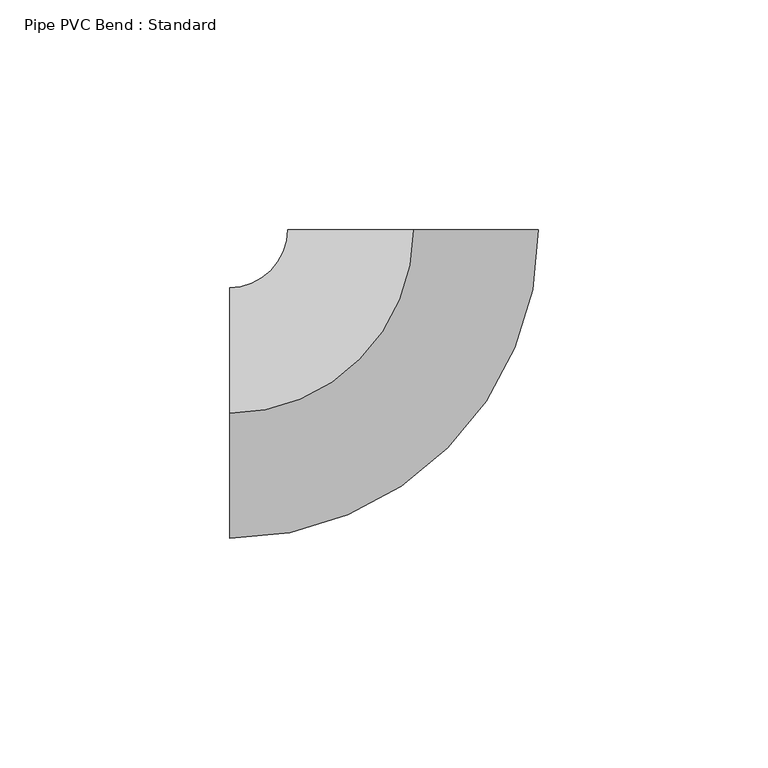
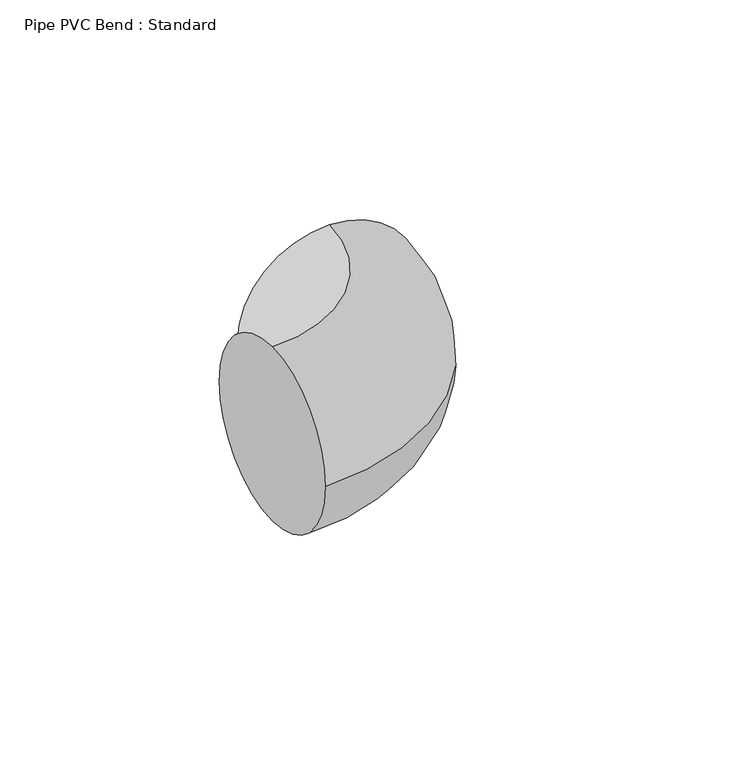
"""IFC4 building model written with IfcOpenShell, lengths in millimetres: pipe fitting geometry, Pipe PVC Bend : Standard."""

from ifc_helpers import new_model, si_unit, point, frame, origin, place, context, project, spatial, circle_curve, ellipse_curve, trimmed, source, transform, mapped, element, save
from ifc_brep_helpers import plane_surface, revolved_surface, advanced_brep


def pipe_pvc_bend_standard_01578e85(model_context):
    return source(origin(), model_context, "Body", "AdvancedBrep", [
        advanced_brep(
        [(-40.0006599, 0.0, 27.305), (-40.0006599, 27.305, 0.0), (-40.0006599, 0.0, -27.305), (-40.0006599, -27.305, 0.0), (0.0043399, 40.0006597, 27.305), (27.3093397, 39.9976972, 0.0), (0.0043399, 40.0006597, -27.305), (-27.30066, 40.0036221, 0.0)],
        [
            (0, 1, circle_curve(frame((-40.0006599, 0.0, 0.0), z_axis=(-1.0, 0.0, 0.0), x_axis=(0.0, 1.0, 0.0)), 27.305)),
            (1, 2, circle_curve(frame((-40.0006599, 0.0, 0.0), z_axis=(-1.0, 0.0, 0.0), x_axis=(0.0, 1.0, 0.0)), 27.305)),
            (2, 3, circle_curve(frame((-40.0006599, 0.0, 0.0), z_axis=(-1.0, 0.0, 0.0), x_axis=(0.0, 1.0, 0.0)), 27.305)),
            (3, 0, circle_curve(frame((-40.0006599, 0.0, 0.0), z_axis=(-1.0, 0.0, 0.0), x_axis=(0.0, 1.0, 0.0)), 27.305)),
            (4, 5, circle_curve(frame((0.0043399, 40.0006597, 0.0), z_axis=(0.00010849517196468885, 0.9999999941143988, 0.0), x_axis=(-0.9999999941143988, 0.00010849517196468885, 0.0)), 27.305)),
            (5, 6, circle_curve(frame((0.0043399, 40.0006597, 0.0), z_axis=(0.00010849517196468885, 0.9999999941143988, 0.0), x_axis=(-0.9999999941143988, 0.00010849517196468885, 0.0)), 27.305)),
            (6, 7, circle_curve(frame((0.0043399, 40.0006597, 0.0), z_axis=(0.00010849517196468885, 0.9999999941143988, 0.0), x_axis=(-0.9999999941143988, 0.00010849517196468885, 0.0)), 27.305)),
            (7, 4, circle_curve(frame((0.0043399, 40.0006597, 0.0), z_axis=(0.00010849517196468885, 0.9999999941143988, 0.0), x_axis=(-0.9999999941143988, 0.00010849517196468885, 0.0)), 27.305)),
            (7, 1, circle_curve(frame((-40.0006599, 40.005, 0.0), z_axis=(0.0, 0.0, -1.0), x_axis=(0.0, -1.0, 0.0)), 12.7)),
            (0, 4, circle_curve(frame((-40.0006599, 40.005, 27.305), z_axis=(0.0, 0.0, 1.0), x_axis=(0.0, -1.0, 0.0)), 40.005)),
            (6, 2, circle_curve(frame((-40.0006599, 40.005, -27.305), z_axis=(0.0, 0.0, -1.0), x_axis=(0.0, -1.0, 0.0)), 40.005)),
            (5, 3, circle_curve(frame((-40.0006599, 40.005, 0.0), z_axis=(0.0, 0.0, -1.0), x_axis=(0.0, -1.0, 0.0)), 67.31)),
        ],
        [
            plane_surface(frame((-40.0006599, 0.0, 0.0), z_axis=(-1.0, 0.0, 0.0), x_axis=(0.0, 0.0, 1.0))),
            plane_surface(frame((0.0043399, 40.0006597, 0.0), z_axis=(0.00010849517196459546, 0.9999999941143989, 0.0), x_axis=(0.0, 0.0, 1.0))),
            revolved_surface(trimmed(ellipse_curve(frame((-40.0006599, 0.0, 0.0), z_axis=(-1.0, 0.0, 0.0), x_axis=(0.0, 1.0, 0.0)), 27.305, 27.305), [point((-40.0006599, 0.0, 27.305))], [point((-40.0006599, 27.305, 0.0))], True, "CARTESIAN"), (-40.0006599, 40.005, 0.0), (0.0, 0.0, 1.0)),
            revolved_surface(trimmed(ellipse_curve(frame((-40.0006599, 0.0, 0.0), z_axis=(-1.0, 0.0, 0.0), x_axis=(0.0, 1.0, 0.0)), 27.305, 27.305), [point((-40.0006599, 27.305, 0.0))], [point((-40.0006599, 0.0, -27.305))], True, "CARTESIAN"), (-40.0006599, 40.005, 0.0), (0.0, 0.0, 1.0)),
            revolved_surface(trimmed(ellipse_curve(frame((-40.0006599, 0.0, 0.0), z_axis=(-1.0, 0.0, 0.0), x_axis=(0.0, 1.0, 0.0)), 27.305, 27.305), [point((-40.0006599, 0.0, -27.305))], [point((-40.0006599, -27.305, 0.0))], True, "CARTESIAN"), (-40.0006599, 40.005, 0.0), (0.0, 0.0, 1.0)),
            revolved_surface(trimmed(ellipse_curve(frame((-40.0006599, 0.0, 0.0), z_axis=(-1.0, 0.0, 0.0), x_axis=(0.0, 1.0, 0.0)), 27.305, 27.305), [point((-40.0006599, -27.305, 0.0))], [point((-40.0006599, 0.0, 27.305))], True, "CARTESIAN"), (-40.0006599, 40.005, 0.0), (0.0, 0.0, 1.0)),
        ],
        [
            (0, [[1, 2, 3, 4]]),
            (1, [[5, 6, 7, 8]]),
            (2, [[9, -1, 10, -8]]),
            (3, [[11, -2, -9, -7]]),
            (4, [[12, -3, -11, -6]]),
            (5, [[-10, -4, -12, -5]]),
        ],
    ),
        advanced_brep(
        [(-40.0006599, 0.0, 27.305), (-40.0006599, 27.305, 0.0), (-40.0006599, 0.0, -27.305), (-40.0006599, -27.305, 0.0), (0.0043399, 40.0006597, 27.305), (27.3093397, 39.9976972, 0.0), (0.0043399, 40.0006597, -27.305), (-27.30066, 40.0036221, 0.0)],
        [
            (0, 1, circle_curve(frame((-40.0006599, 0.0, 0.0), z_axis=(-1.0, 0.0, 0.0), x_axis=(0.0, 1.0, 0.0)), 27.305)),
            (1, 2, circle_curve(frame((-40.0006599, 0.0, 0.0), z_axis=(-1.0, 0.0, 0.0), x_axis=(0.0, 1.0, 0.0)), 27.305)),
            (2, 3, circle_curve(frame((-40.0006599, 0.0, 0.0), z_axis=(-1.0, 0.0, 0.0), x_axis=(0.0, 1.0, 0.0)), 27.305)),
            (3, 0, circle_curve(frame((-40.0006599, 0.0, 0.0), z_axis=(-1.0, 0.0, 0.0), x_axis=(0.0, 1.0, 0.0)), 27.305)),
            (4, 5, circle_curve(frame((0.0043399, 40.0006597, 0.0), z_axis=(0.00010849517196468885, 0.9999999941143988, 0.0), x_axis=(-0.9999999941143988, 0.00010849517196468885, 0.0)), 27.305)),
            (5, 6, circle_curve(frame((0.0043399, 40.0006597, 0.0), z_axis=(0.00010849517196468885, 0.9999999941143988, 0.0), x_axis=(-0.9999999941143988, 0.00010849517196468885, 0.0)), 27.305)),
            (6, 7, circle_curve(frame((0.0043399, 40.0006597, 0.0), z_axis=(0.00010849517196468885, 0.9999999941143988, 0.0), x_axis=(-0.9999999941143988, 0.00010849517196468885, 0.0)), 27.305)),
            (7, 4, circle_curve(frame((0.0043399, 40.0006597, 0.0), z_axis=(0.00010849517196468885, 0.9999999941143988, 0.0), x_axis=(-0.9999999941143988, 0.00010849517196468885, 0.0)), 27.305)),
            (7, 1, circle_curve(frame((-40.0006599, 40.005, 0.0), z_axis=(0.0, 0.0, -1.0), x_axis=(0.0, -1.0, 0.0)), 12.7)),
            (0, 4, circle_curve(frame((-40.0006599, 40.005, 27.305), z_axis=(0.0, 0.0, 1.0), x_axis=(0.0, -1.0, 0.0)), 40.005)),
            (6, 2, circle_curve(frame((-40.0006599, 40.005, -27.305), z_axis=(0.0, 0.0, -1.0), x_axis=(0.0, -1.0, 0.0)), 40.005)),
            (5, 3, circle_curve(frame((-40.0006599, 40.005, 0.0), z_axis=(0.0, 0.0, -1.0), x_axis=(0.0, -1.0, 0.0)), 67.31)),
        ],
        [
            plane_surface(frame((-40.0006599, 0.0, 0.0), z_axis=(-1.0, 0.0, 0.0), x_axis=(0.0, 0.0, 1.0))),
            plane_surface(frame((0.0043399, 40.0006597, 0.0), z_axis=(0.00010849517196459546, 0.9999999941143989, 0.0), x_axis=(0.0, 0.0, 1.0))),
            revolved_surface(trimmed(ellipse_curve(frame((-40.0006599, 0.0, 0.0), z_axis=(-1.0, 0.0, 0.0), x_axis=(0.0, 1.0, 0.0)), 27.305, 27.305), [point((-40.0006599, 0.0, 27.305))], [point((-40.0006599, 27.305, 0.0))], True, "CARTESIAN"), (-40.0006599, 40.005, 0.0), (0.0, 0.0, 1.0)),
            revolved_surface(trimmed(ellipse_curve(frame((-40.0006599, 0.0, 0.0), z_axis=(-1.0, 0.0, 0.0), x_axis=(0.0, 1.0, 0.0)), 27.305, 27.305), [point((-40.0006599, 27.305, 0.0))], [point((-40.0006599, 0.0, -27.305))], True, "CARTESIAN"), (-40.0006599, 40.005, 0.0), (0.0, 0.0, 1.0)),
            revolved_surface(trimmed(ellipse_curve(frame((-40.0006599, 0.0, 0.0), z_axis=(-1.0, 0.0, 0.0), x_axis=(0.0, 1.0, 0.0)), 27.305, 27.305), [point((-40.0006599, 0.0, -27.305))], [point((-40.0006599, -27.305, 0.0))], True, "CARTESIAN"), (-40.0006599, 40.005, 0.0), (0.0, 0.0, 1.0)),
            revolved_surface(trimmed(ellipse_curve(frame((-40.0006599, 0.0, 0.0), z_axis=(-1.0, 0.0, 0.0), x_axis=(0.0, 1.0, 0.0)), 27.305, 27.305), [point((-40.0006599, -27.305, 0.0))], [point((-40.0006599, 0.0, 27.305))], True, "CARTESIAN"), (-40.0006599, 40.005, 0.0), (0.0, 0.0, 1.0)),
        ],
        [
            (0, [[1, 2, 3, 4]]),
            (1, [[5, 6, 7, 8]]),
            (2, [[9, -1, 10, -8]]),
            (3, [[11, -2, -9, -7]]),
            (4, [[12, -3, -11, -6]]),
            (5, [[-10, -4, -12, -5]]),
        ],
    ),
    ])


if __name__ == "__main__":
    model = new_model("IFC4")
    model_context = context("Model", 3, world=origin())
    ifc_project = project(units=[si_unit("LENGTHUNIT", "METRE", prefix="MILLI")], contexts=[model_context])
    site = spatial("IfcSite", under=ifc_project)
    building = spatial("IfcBuilding", under=site)
    placement = place(None, origin())
    pipe_pvc_bend_standard_shape = pipe_pvc_bend_standard_01578e85(model_context)
    element("IfcPipeFitting", 1, ObjectType="Pipe PVC Bend : Standard", at=placement, inside=building, context=model_context, shape_type="MappedRepresentation", body=[
        mapped(pipe_pvc_bend_standard_shape, transform((0.0, 0.0, 0.0), x_axis=(1.0, 0.0, 0.0), y_axis=(0.0, 1.0, 0.0), z_axis=(0.0, 0.0, 1.0))),
    ])
    save(model, "model.ifc")
